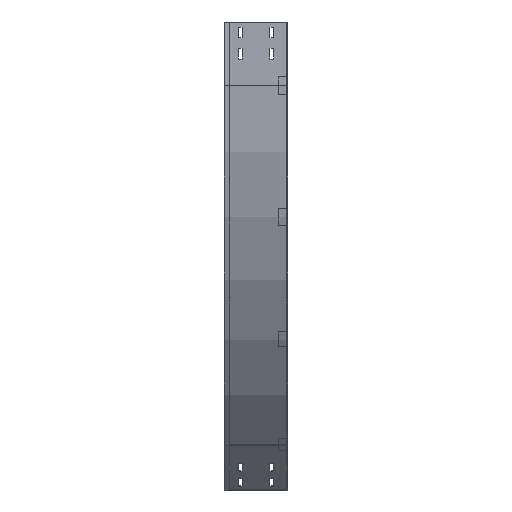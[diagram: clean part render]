
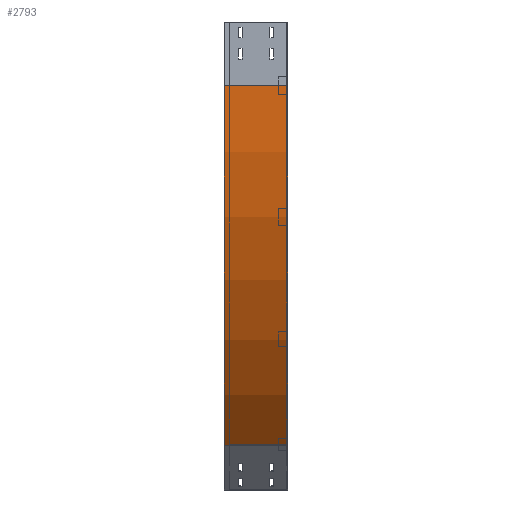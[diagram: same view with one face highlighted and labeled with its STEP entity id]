
A CAD part, left-side view. The second image highlights one B-rep face of the part: STEP entity #2793.
In plain terms, the highlighted cylindrical face has radius 1200 mm (diameter 2400 mm), a partial arc.
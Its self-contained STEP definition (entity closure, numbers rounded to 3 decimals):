
#53 = LINE ( 'NONE', #307, #169 ) ;
#67 = CARTESIAN_POINT ( 'NONE',  ( 351.472, 150., -998.528 ) ) ;
#131 = VERTEX_POINT ( 'NONE', #2635 ) ;
#169 = VECTOR ( 'NONE', #1217, 1000. ) ;
#251 = VERTEX_POINT ( 'NONE', #67 ) ;
#307 = CARTESIAN_POINT ( 'NONE',  ( 0., 0., -150. ) ) ;
#412 = DIRECTION ( 'NONE',  ( 0., -1., 0. ) ) ;
#436 = DIRECTION ( 'NONE',  ( 0., -1., 0. ) ) ;
#538 = CIRCLE ( 'NONE', #658, 1200. ) ;
#618 = DIRECTION ( 'NONE',  ( 0., -1., 0. ) ) ;
#658 = AXIS2_PLACEMENT_3D ( 'NONE', #3384, #2757, #1611 ) ;
#728 = DIRECTION ( 'NONE',  ( -1., 0., 0. ) ) ;
#778 = ORIENTED_EDGE ( 'NONE', *, *, #3452, .T. ) ;
#818 = EDGE_CURVE ( 'NONE', #131, #3193, #2088, .T. ) ;
#889 = DIRECTION ( 'NONE',  ( 0., 0., -1. ) ) ;
#953 = VERTEX_POINT ( 'NONE', #2979 ) ;
#1075 = EDGE_LOOP ( 'NONE', ( #3583, #2299, #2560, #778 ) ) ;
#1217 = DIRECTION ( 'NONE',  ( 0., -1., 0. ) ) ;
#1242 = CYLINDRICAL_SURFACE ( 'NONE', #2780, 1200. ) ;
#1292 = CARTESIAN_POINT ( 'NONE',  ( 1200., 0., -150. ) ) ;
#1313 = CARTESIAN_POINT ( 'NONE',  ( 351.472, 0., -998.528 ) ) ;
#1492 = EDGE_CURVE ( 'NONE', #953, #131, #53, .T. ) ;
#1611 = DIRECTION ( 'NONE',  ( -1., 0., 0. ) ) ;
#2088 = CIRCLE ( 'NONE', #2144, 1200. ) ;
#2144 = AXIS2_PLACEMENT_3D ( 'NONE', #1292, #412, #728 ) ;
#2299 = ORIENTED_EDGE ( 'NONE', *, *, #1492, .F. ) ;
#2403 = FACE_OUTER_BOUND ( 'NONE', #1075, .T. ) ;
#2560 = ORIENTED_EDGE ( 'NONE', *, *, #2673, .T. ) ;
#2635 = CARTESIAN_POINT ( 'NONE',  ( 0., 0., -150. ) ) ;
#2673 = EDGE_CURVE ( 'NONE', #953, #251, #538, .T. ) ;
#2757 = DIRECTION ( 'NONE',  ( 0., -1., 0. ) ) ;
#2780 = AXIS2_PLACEMENT_3D ( 'NONE', #3008, #618, #889 ) ;
#2793 = ADVANCED_FACE ( 'NONE', ( #2403 ), #1242, .T. ) ;
#2979 = CARTESIAN_POINT ( 'NONE',  ( 0., 150., -150. ) ) ;
#3008 = CARTESIAN_POINT ( 'NONE',  ( 1200., 0., -150. ) ) ;
#3193 = VERTEX_POINT ( 'NONE', #3207 ) ;
#3207 = CARTESIAN_POINT ( 'NONE',  ( 351.472, 0., -998.528 ) ) ;
#3358 = LINE ( 'NONE', #1313, #3476 ) ;
#3384 = CARTESIAN_POINT ( 'NONE',  ( 1200., 150., -150. ) ) ;
#3452 = EDGE_CURVE ( 'NONE', #251, #3193, #3358, .T. ) ;
#3476 = VECTOR ( 'NONE', #436, 1000. ) ;
#3583 = ORIENTED_EDGE ( 'NONE', *, *, #818, .F. ) ;
